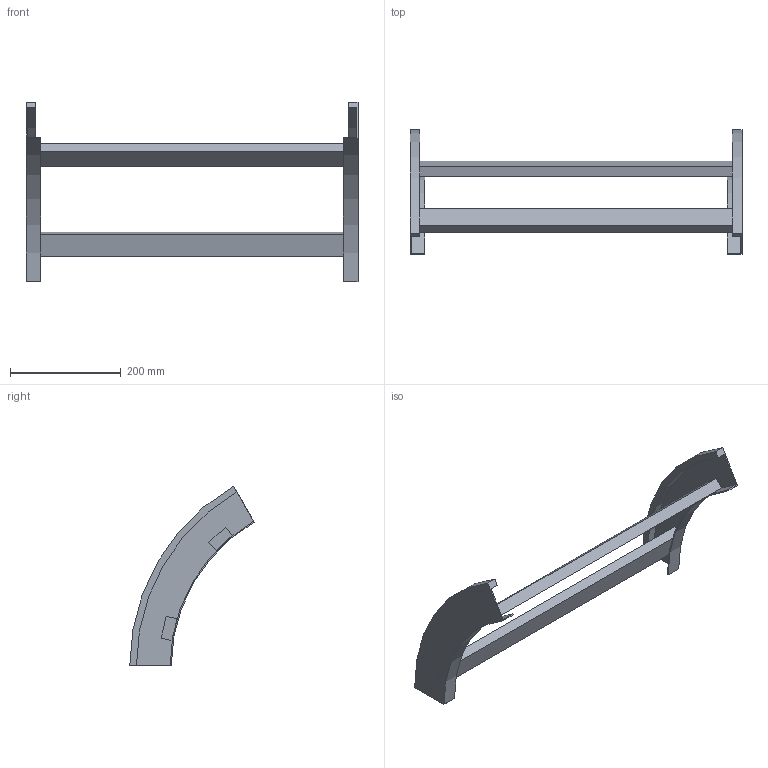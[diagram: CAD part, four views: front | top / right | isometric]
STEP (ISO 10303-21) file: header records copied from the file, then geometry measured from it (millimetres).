
FILE_DESCRIPTION (( 'STEP AP214' ), '1' );
FILE_NAME ('B2_41B3C600.step', '2025-02-21T15:00:42', ( '' ), ( '' ), 'SwSTEP 2.0', 'SolidWorks 2023', '' );
FILE_SCHEMA (( 'AUTOMOTIVE_DESIGN' ));
Length unit declared in the file: millimetre
Products named in the file (3): B2_41B3C600; TRAVERSINO_600; B2_LONGH.DISCESA_60°_H75_R300
Assembly tree (4 placements, depth 2):
  B2_41B3C600
    B2_LONGH.DISCESA_60°_H75_R300  x2
    TRAVERSINO_600  x2
Bounding box: 600 x 225 x 324.76 mm (x, y, z)
Volume: 1251453.1 mm3; surface area: 314147.4 mm2
Topology: 4 solids, 4 shells, 32 faces, 72 edges, 48 vertices
Faces by surface type: plane 24, cylinder 8
Entity records: 552 total; most frequent: DIRECTION 90, CARTESIAN_POINT 83, ORIENTED_EDGE 72, EDGE_CURVE 36, AXIS2_PLACEMENT_3D 31, VECTOR 28, LINE 28, VERTEX_POINT 24
